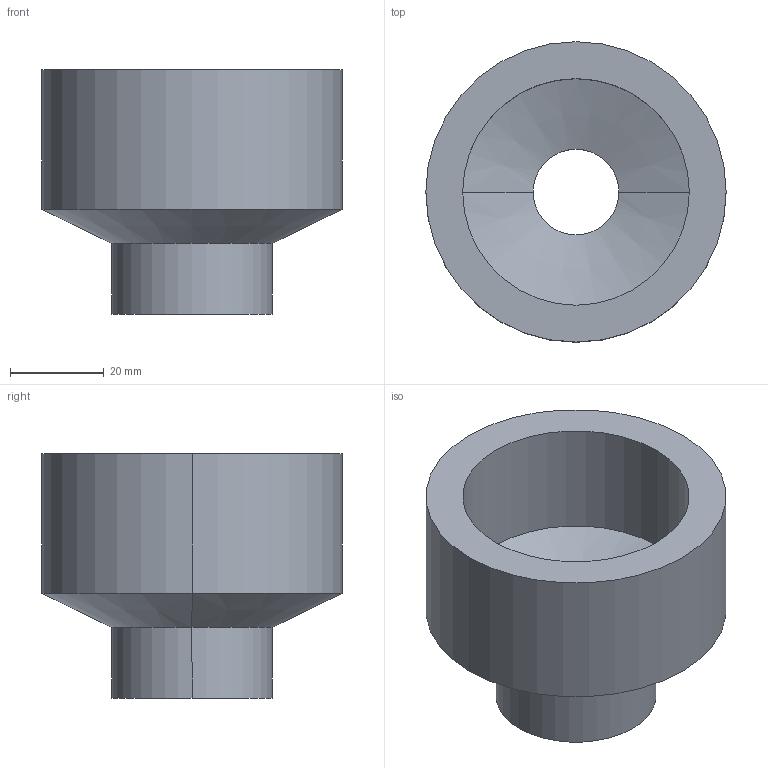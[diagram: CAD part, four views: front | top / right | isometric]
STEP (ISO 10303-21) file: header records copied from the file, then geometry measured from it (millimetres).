
FILE_DESCRIPTION (( 'STEP AP203' ), '1' );
FILE_NAME ('PMR08 FADO.STEP', '2022-08-23T10:29:57', ( '' ), ( '' ), 'SwSTEP 2.0', 'SolidWorks 2021', '' );
FILE_SCHEMA (( 'CONFIG_CONTROL_DESIGN' ));
Length unit declared in the file: millimetre
Products named in the file (1): PMR08 FADO
Bounding box: 64 x 64 x 52.1 mm (x, y, z)
Volume: 63889 mm3; surface area: 19223.8 mm2
Topology: 1 solids, 1 shells, 17 faces, 34 edges, 20 vertices
Faces by surface type: cylinder 10, cone 4, plane 3
Entity records: 525 total; most frequent: DIRECTION 90, CARTESIAN_POINT 72, ORIENTED_EDGE 68, AXIS2_PLACEMENT_3D 38, EDGE_CURVE 34, CIRCLE 20, EDGE_LOOP 20, VERTEX_POINT 20
